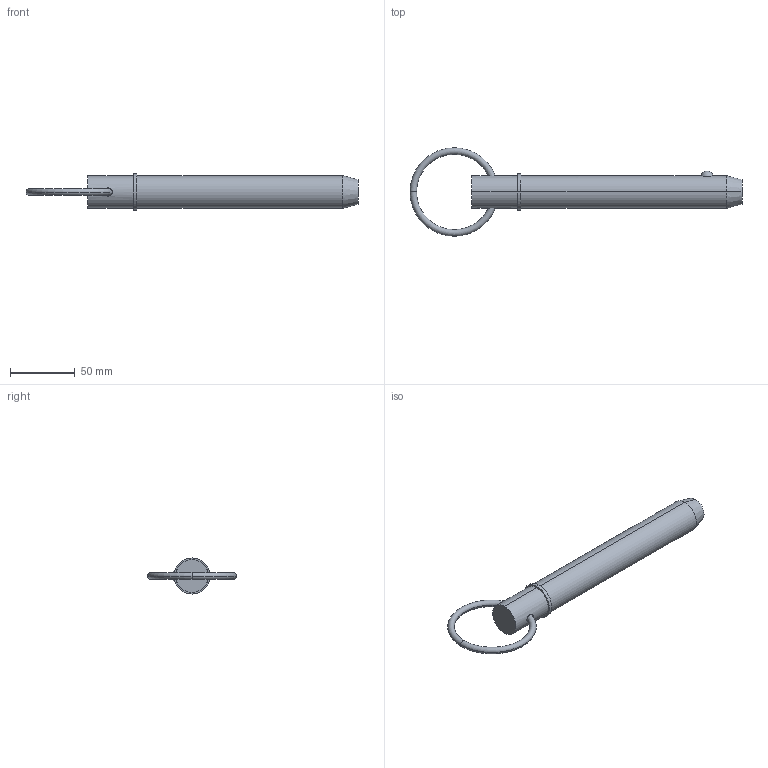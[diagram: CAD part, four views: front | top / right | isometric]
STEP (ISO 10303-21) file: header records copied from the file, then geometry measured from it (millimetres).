
FILE_DESCRIPTION (( 'STEP AP203' ), '1' );
FILE_NAME ('33014.W1055.step', '2024-11-04T08:40:09', ( '' ), ( '' ), 'SwSTEP 2.0', 'SolidWorks 2019', '' );
FILE_SCHEMA (( 'CONFIG_CONTROL_DESIGN' ));
Length unit declared in the file: millimetre
Products named in the file (3): Part2_33014.W1055; Part1_33014.W1055; 33014.W1055
Assembly tree (2 placements, depth 2):
  33014.W1055
    Part1_33014.W1055
    Part2_33014.W1055
Bounding box: 257.32 x 68.58 x 27.94 mm (x, y, z)
Volume: 108458.2 mm3; surface area: 21334 mm2
Topology: 2 solids, 2 shells, 22 faces, 43 edges, 26 vertices
Faces by surface type: torus 8, cylinder 6, plane 4, sphere 2, cone 2
Entity records: 1075 total; most frequent: CARTESIAN_POINT 298, DIRECTION 120, ORIENTED_EDGE 86, AXIS2_PLACEMENT_3D 56, EDGE_CURVE 43, CIRCLE 29, EDGE_LOOP 27, PERSON_AND_ORGANIZATION 26
